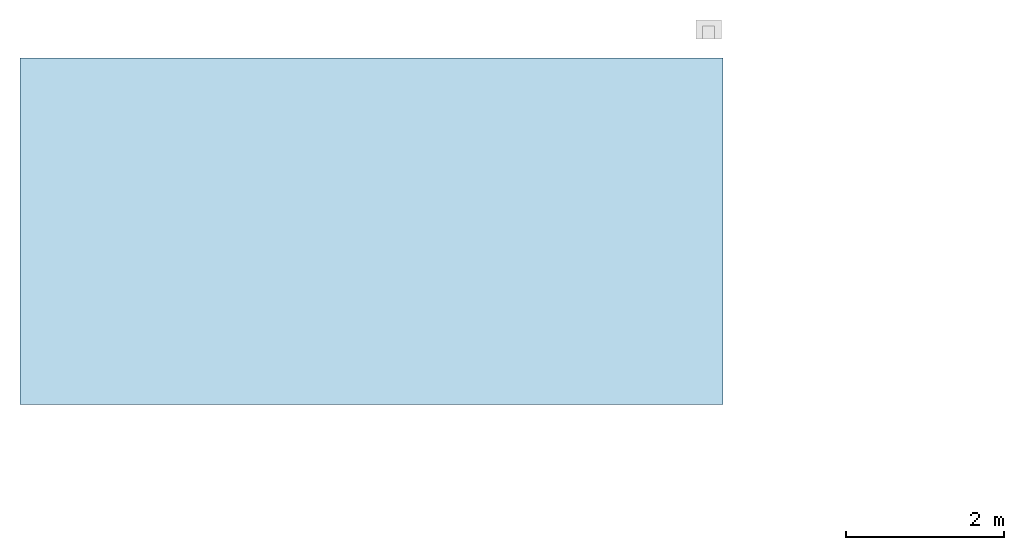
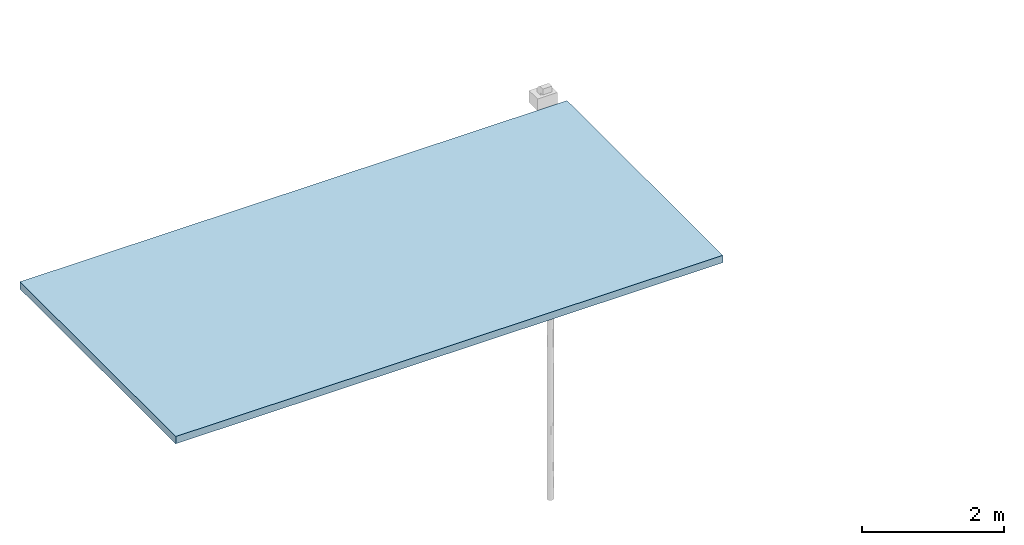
# One storey, part 1 of 2: 1 slab, 1 element without a shape of its own.
"""IFC2X3 building model written with IfcOpenShell, lengths in millimetres."""

import ifcopenshell
import ifcopenshell.guid

model = None  # the IFC model being written
_history = None  # IfcOwnerHistory: only IFC2X3 demands one
_inside = {}  # id of a spatial element -> (the spatial element, [elements in it])
_under = {}  # id of a project, library or spatial element -> (it, [spatial elements below it])
_declared = {}  # id of a project -> (the project, [libraries it declares])
_typed = {}  # id of a type object -> (the type object, [elements of that type])
_made_of = {}  # id of a material, layer set ... -> (it, [elements and type objects made of it])


def new_model(schema):
    """Start an empty IFC model of exactly this schema.

    Asked for "IFC4X3", IfcOpenShell would pick the latest addendum, in which some entities
    have other attributes; the version numbers below select the first issue.
    IFC2X3 requires an IfcOwnerHistory on every rooted entity: one is made here for all.
    """
    global model, _history
    if schema == "IFC4X3":
        model = ifcopenshell.file(schema_version=(4, 3, 0, 0))
    else:
        model = ifcopenshell.file(schema=schema)
    _inside.clear()
    _under.clear()
    _declared.clear()
    _typed.clear()
    _made_of.clear()
    _history = None
    if model.schema == "IFC2X3":
        org = make("IfcOrganization", Name="unknown")
        user = make(
            "IfcPersonAndOrganization",
            ThePerson=make("IfcPerson", FamilyName="unknown"),
            TheOrganization=org,
        )
        app = make(
            "IfcApplication",
            ApplicationDeveloper=org,
            Version="unknown",
            ApplicationFullName="unknown",
            ApplicationIdentifier="unknown",
        )
        _history = make(
            "IfcOwnerHistory",
            OwningUser=user,
            OwningApplication=app,
            ChangeAction="ADDED",
            CreationDate=0,
        )
    return model


def make(cls, **values):
    """One entity of the class cls with the attributes given. An attribute that is None is left unset."""
    return model.create_entity(
        cls, **{name: value for name, value in values.items() if value is not None}
    )


def entity(cls, *values):
    """Any entity or typed value of the class cls, its attributes in the order of the schema. None: left unset."""
    e = model.create_entity(cls)
    for i, value in enumerate(values):
        if value is not None:
            e[i] = value
    return e


def rooted(cls, **values):
    """An entity with a GlobalId (a new one), such as an element, a storey or a relation."""
    return make(cls, GlobalId=ifcopenshell.guid.new(), OwnerHistory=_history, **values)


def si_unit(unit_type, name, prefix=None):
    """IfcSIUnit, for example si_unit("LENGTHUNIT", "METRE", prefix="MILLI")."""
    return make("IfcSIUnit", UnitType=unit_type, Prefix=prefix, Name=name)


def converted_unit(unit_type, name, factor, base, dimensions=None, offset=None):
    """IfcConversionBasedUnit, such as the inch: factor (a typed value) times the base unit."""
    return make(
        "IfcConversionBasedUnit"
        if offset is None
        else "IfcConversionBasedUnitWithOffset",
        ConversionOffset=offset,
        Dimensions=None
        if dimensions is None
        else entity("IfcDimensionalExponents", *dimensions),
        UnitType=unit_type,
        Name=name,
        ConversionFactor=make(
            "IfcMeasureWithUnit", ValueComponent=factor, UnitComponent=base
        ),
    )


def derived_unit(unit_type, elements):
    """IfcDerivedUnit: a product of units, each with its exponent."""
    return make(
        "IfcDerivedUnit",
        Elements=[
            make("IfcDerivedUnitElement", Unit=unit, Exponent=power)
            for unit, power in elements
        ],
        UnitType=unit_type,
    )


def assignment(units):
    """IfcUnitAssignment: the units of a project."""
    return None if units is None else make("IfcUnitAssignment", Units=units)


def point(xyz):
    """IfcCartesianPoint."""
    return None if xyz is None else make("IfcCartesianPoint", Coordinates=xyz)


def direction(xyz):
    """IfcDirection."""
    return None if xyz is None else make("IfcDirection", DirectionRatios=xyz)


def frame(location, z_axis=None, x_axis=None):
    """IfcAxis2Placement3D, a coordinate frame: its origin and axes. An axis left out is left unset."""
    return make(
        "IfcAxis2Placement3D",
        Location=point(location),
        Axis=direction(z_axis),
        RefDirection=direction(x_axis),
    )


def frame_2d(location, x_axis=None):
    """IfcAxis2Placement2D, a coordinate frame in the plane: its origin and x axis."""
    return make(
        "IfcAxis2Placement2D", Location=point(location), RefDirection=direction(x_axis)
    )


def origin():
    """The frame at (0, 0, 0) with its axes left unset."""
    return frame((0.0, 0.0, 0.0))


def place(relative_to, where):
    """IfcLocalPlacement: puts the frame where relative to a parent placement (None: the world)."""
    return make(
        "IfcLocalPlacement", PlacementRelTo=relative_to, RelativePlacement=where
    )


def context(
    kind, dimensions, precision=None, world=None, true_north=None, identifier=None
):
    """IfcGeometricRepresentationContext, for example the 3D "Model" context."""
    return make(
        "IfcGeometricRepresentationContext",
        ContextIdentifier=identifier,
        ContextType=kind,
        CoordinateSpaceDimension=dimensions,
        Precision=precision,
        WorldCoordinateSystem=world,
        TrueNorth=true_north,
    )


def subcontext(parent, identifier, kind, view, scale=None):
    """IfcGeometricRepresentationSubContext, for example "Body" below "Model"."""
    return make(
        "IfcGeometricRepresentationSubContext",
        ContextIdentifier=identifier,
        ContextType=kind,
        ParentContext=parent,
        TargetScale=scale,
        TargetView=view,
    )


def project(units=None, contexts=None):
    """IfcProject with its units and contexts."""
    return rooted(
        "IfcProject",
        Name="project",
        RepresentationContexts=contexts,
        UnitsInContext=assignment(units),
    )


def spatial(cls, under=None, at=None, **own):
    """A site, building, storey or space (cls), placed at a placement, below another one or the project."""
    s = rooted(cls, ObjectPlacement=at, **own)
    if under is not None:
        _under.setdefault(under.id(), (under, []))[1].append(s)
    return s


def profile(cls, at=None, kind="AREA", **sizes):
    """A parametric profile (cls). Its sizes go by their IFC names, for example OverallWidth=200.0."""
    return make(cls, ProfileType=kind, Position=at, **sizes)


def rectangle(**sizes):
    """IfcRectangleProfileDef."""
    return profile("IfcRectangleProfileDef", **sizes)


def extrude(swept, where, along, depth):
    """IfcExtrudedAreaSolid: the profile swept, set in the frame where, extruded along a direction by depth."""
    return make(
        "IfcExtrudedAreaSolid",
        SweptArea=swept,
        Position=where,
        ExtrudedDirection=direction(along),
        Depth=depth,
    )


def shape(context_of_items, identifier, shape_type, items):
    """IfcShapeRepresentation: the items that make up one representation, for example the "Body"."""
    return make(
        "IfcShapeRepresentation",
        ContextOfItems=context_of_items,
        RepresentationIdentifier=identifier,
        RepresentationType=shape_type,
        Items=items,
    )


def material(Name=None, Category=None):
    """IfcMaterial."""
    return make("IfcMaterial", Name=Name, Category=Category)


def layer(
    of_material, thickness, ventilated=None, Name=None, Category=None, Priority=None
):
    """IfcMaterialLayer: one layer of a wall or slab, of a material (None: an air gap)."""
    return make(
        "IfcMaterialLayer",
        Material=of_material,
        LayerThickness=thickness,
        IsVentilated=ventilated,
        Name=Name,
        Category=Category,
        Priority=Priority,
    )


def layer_set(layers, Name=None):
    """IfcMaterialLayerSet."""
    return make("IfcMaterialLayerSet", MaterialLayers=layers, LayerSetName=Name)


def made_of(thing, what):
    """Note that an element or type object is made of a material, layer set ...; save() writes the relation."""
    if what is not None:
        _made_of.setdefault(what.id(), (what, []))[1].append(thing)
    return thing


def element(
    cls,
    number,
    at=None,
    inside=None,
    cuts=None,
    type_object=None,
    material=None,
    context=None,
    identifier="Body",
    shape_type=None,
    held_by="IfcProductDefinitionShape",
    body=None,
    shapes=None,
    **own,
):
    """One element of the class cls, such as IfcWall. Its Tag is "e" and its number.

    at: its placement. inside: the storey or other place that contains it. cuts: it is an
    opening in that element (IfcRelVoidsElement). A single representation is given by context,
    identifier, shape_type and body (its items); several are given by shapes. held_by: the class
    of the entity that holds the representations. save() writes the other relations.
    """
    e = rooted(cls, Tag="e%d" % number, ObjectPlacement=at, **own)
    if body is not None:
        shapes = [shape(context, identifier, shape_type, body)]
    if shapes is not None:
        e.Representation = make(held_by, Representations=shapes)
    if inside is not None:
        _inside.setdefault(inside.id(), (inside, []))[1].append(e)
    if cuts is not None:
        rooted(
            "IfcRelVoidsElement", RelatingBuildingElement=cuts, RelatedOpeningElement=e
        )
    if type_object is not None:
        _typed.setdefault(type_object.id(), (type_object, []))[1].append(e)
    return made_of(e, material)


def aggregate(whole, parts):
    """IfcRelAggregates: a whole, such as a stair, and the parts it consists of."""
    return rooted("IfcRelAggregates", RelatingObject=whole, RelatedObjects=parts)


def save(model, path):
    """Write the relations noted so far, then the file.

    IfcRelAggregates (storeys below a building ...), IfcRelContainedInSpatialStructure (elements
    in a storey), IfcRelDefinesByType, IfcRelAssociatesMaterial and IfcRelDeclares: one each for
    every whole, place, type object, material and project.
    """
    for whole, parts in _under.values():
        aggregate(whole, parts)
    for where, things in _inside.values():
        rooted(
            "IfcRelContainedInSpatialStructure",
            RelatedElements=things,
            RelatingStructure=where,
        )
    for kind, things in _typed.values():
        rooted("IfcRelDefinesByType", RelatedObjects=things, RelatingType=kind)
    for what, things in _made_of.values():
        rooted("IfcRelAssociatesMaterial", RelatedObjects=things, RelatingMaterial=what)
    for by, libraries in _declared.values():
        rooted("IfcRelDeclares", RelatingContext=by, RelatedDefinitions=libraries)
    model.write(path)


model = new_model("IFC2X3")

# Units and contexts
model_context = context("Model", 3, precision=0.01, world=origin(), true_north=direction((6.12303176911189e-17, 1.0)))
body_context = subcontext(model_context, "Body", "Model", "MODEL_VIEW")
ifc_project = project(units=[si_unit("LENGTHUNIT", "METRE", prefix="MILLI"), si_unit("AREAUNIT", "SQUARE_METRE"), si_unit("VOLUMEUNIT", "CUBIC_METRE"), converted_unit("PLANEANGLEUNIT", "DEGREE", entity("IfcRatioMeasure", 0.0174532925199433), si_unit("PLANEANGLEUNIT", "RADIAN"), dimensions=[0, 0, 0, 0, 0, 0, 0]), si_unit("MASSUNIT", "GRAM", prefix="KILO"), derived_unit("MASSDENSITYUNIT", [(si_unit("MASSUNIT", "GRAM", prefix="KILO"), 1), (si_unit("LENGTHUNIT", "METRE"), -3)]), si_unit("TIMEUNIT", "SECOND"), si_unit("FREQUENCYUNIT", "HERTZ"), si_unit("THERMODYNAMICTEMPERATUREUNIT", "DEGREE_CELSIUS"), derived_unit("THERMALTRANSMITTANCEUNIT", [(si_unit("MASSUNIT", "GRAM", prefix="KILO"), 1), (si_unit("THERMODYNAMICTEMPERATUREUNIT", "KELVIN"), -1), (si_unit("TIMEUNIT", "SECOND"), -3)]), derived_unit("VOLUMETRICFLOWRATEUNIT", [(si_unit("LENGTHUNIT", "METRE"), 3), (si_unit("TIMEUNIT", "SECOND"), -1)]), si_unit("ELECTRICCURRENTUNIT", "AMPERE"), si_unit("ELECTRICVOLTAGEUNIT", "VOLT"), si_unit("POWERUNIT", "WATT"), si_unit("FORCEUNIT", "NEWTON", prefix="KILO"), si_unit("ILLUMINANCEUNIT", "LUX"), si_unit("LUMINOUSFLUXUNIT", "LUMEN"), si_unit("LUMINOUSINTENSITYUNIT", "CANDELA"), derived_unit("USERDEFINED", [(si_unit("MASSUNIT", "GRAM", prefix="KILO"), -1), (si_unit("LENGTHUNIT", "METRE"), -2), (si_unit("TIMEUNIT", "SECOND"), 3), (si_unit("LUMINOUSFLUXUNIT", "LUMEN"), 1)]), derived_unit("LINEARVELOCITYUNIT", [(si_unit("LENGTHUNIT", "METRE"), 1), (si_unit("TIMEUNIT", "SECOND"), -1)]), si_unit("PRESSUREUNIT", "PASCAL"), derived_unit("USERDEFINED", [(si_unit("LENGTHUNIT", "METRE"), -2), (si_unit("MASSUNIT", "GRAM", prefix="KILO"), 1), (si_unit("TIMEUNIT", "SECOND"), -2)])], contexts=[model_context])

# Site, building, storey
site_placement = place(None, origin())
site = spatial("IfcSite", under=ifc_project, at=site_placement, Name="表面", CompositionType="ELEMENT")
building_placement = place(site_placement, origin())
building = spatial("IfcBuilding", under=site, at=building_placement, CompositionType="ELEMENT")
storey_placement = place(building_placement, frame((0.0, 0.0, 6790.0)))
storey = spatial("IfcBuildingStorey", under=building, at=storey_placement, Name="6.790", CompositionType="ELEMENT", Elevation=6790.0)

# Roof, slab
roof_placement = place(storey_placement, frame((-47528.7987814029, 11229.6974073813, -125.0)))
roof = element("IfcRoof", 1, at=roof_placement, inside=storey, Name="基本屋顶:常规 - 125mm", ObjectType="基本屋顶:常规 - 125mm", ShapeType="NOTDEFINED")
ifc_material = material(Name="彩钢-蓝")
ifc_layer = layer(ifc_material, 125.0)
ifc_layer_set = layer_set([ifc_layer], Name="基本屋顶:常规 - 125mm")
slab_placement = place(roof_placement, origin())
slab = element("IfcSlab", 2, at=slab_placement, material=ifc_layer_set, Name="基本屋顶:常规 - 125mm", ObjectType="基本屋顶:常规 - 125mm", PredefinedType="ROOF", context=body_context, shape_type="SweptSolid", body=[
    extrude(rectangle(XDim=8879.99999999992, YDim=4380.00000000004, at=frame_2d((-2.27373675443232e-12, 1.13686837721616e-12), x_axis=(1.0, 0.0))), frame((4440.0, 2190.0, 0.0)), (0.0, 0.0, 1.0), 125.0),
])
aggregate(roof, [slab])

save(model, "model.ifc")
